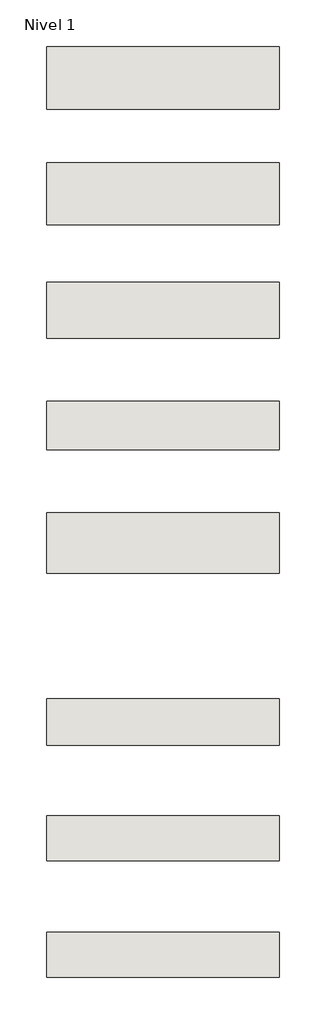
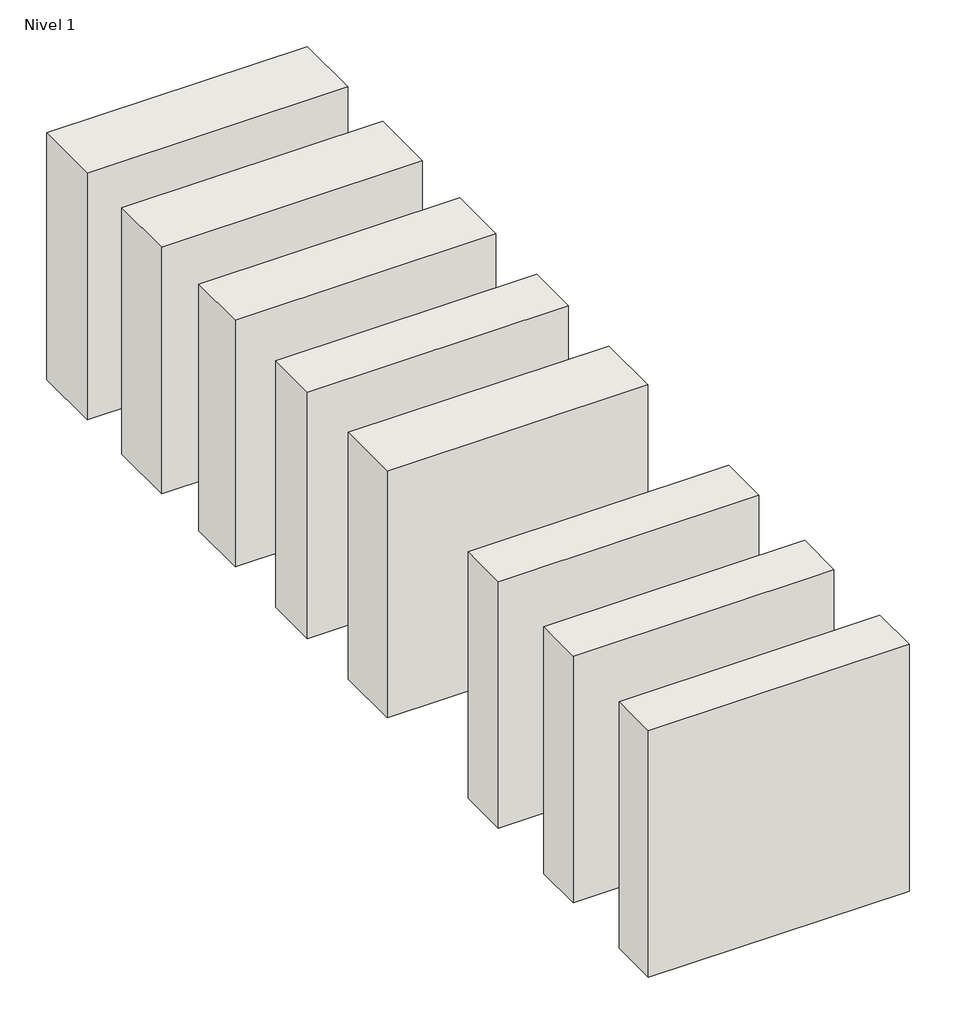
# One storey: 8 walls.
"""IFC4 building model written with IfcOpenShell, lengths in millimetres."""

from ifc_helpers import new_model, si_unit, origin, origin_with_axes, place, context, project, spatial, polyline, outline, extrude, element, save

model = new_model("IFC4")

# Units and contexts
model_context = context("Model", 3, world=origin())
ifc_project = project(units=[si_unit("LENGTHUNIT", "METRE", prefix="MILLI")], contexts=[model_context])

# Site, building, storey
site = spatial("IfcSite", under=ifc_project)
building = spatial("IfcBuilding", under=site)
storey = spatial("IfcBuildingStorey", under=building, Name="Nivel 1", Elevation=0.0)

# Walls
placement = place(None, origin())
element("IfcWall", 1, ObjectType="SATEbrick Acústico 11,5 yeso una cara. Trasdosado una con lana mineral 45 mm + PYL15", at=placement, inside=storey, context=model_context, shape_type="SweptSolid", body=[
    extrude(outline(polyline([(-1966.2152419, 6530.8319856), (-2966.2152419, 6530.8319856), (-2966.2152419, 6730.8319856), (-1966.2152419, 6730.8319856), (-1966.2152419, 6530.8319856)])), origin_with_axes(), (0.0, 0.0, 1.0), 1000.0),
])
element("IfcWall", 2, ObjectType="Megabrick Triplex 11 cm. Trasdosado ambas caras con lana mineral 50 mm + PYL 15", at=placement, inside=storey, context=model_context, shape_type="SweptSolid", body=[
    extrude(outline(polyline([(-1966.2152419, 7268.3319856), (-2966.2152419, 7268.3319856), (-2966.2152419, 7528.3319856), (-1966.2152419, 7528.3319856), (-1966.2152419, 7268.3319856)])), origin_with_axes(), (0.0, 0.0, 1.0), 1000.0),
])
element("IfcWall", 3, ObjectType="Megabrick Triple Acústico 7. Trasdosado ambas caras con lana mineral 45 mm + PYL 15", at=placement, inside=storey, context=model_context, shape_type="SweptSolid", body=[
    extrude(outline(polyline([(-1966.2152419, 7798.3319856), (-2966.2152419, 7798.3319856), (-2966.2152419, 8008.3319856), (-1966.2152419, 8008.3319856), (-1966.2152419, 7798.3319856)])), origin_with_axes(), (0.0, 0.0, 1.0), 1000.0),
])
element("IfcWall", 4, ObjectType="Megabrick 7 Tabique. Trasdosado ambas caras con lana mineral 50 mm + 2 PYL12,5", at=placement, inside=storey, context=model_context, shape_type="SweptSolid", body=[
    extrude(outline(polyline([(-1966.2152419, 8278.3319856), (-2966.2152419, 8278.3319856), (-2966.2152419, 8518.3319856), (-1966.2152419, 8518.3319856), (-1966.2152419, 8278.3319856)])), origin_with_axes(), (0.0, 0.0, 1.0), 1000.0),
])
element("IfcWall", 5, ObjectType="SATEbrick Acústico 11,5. Trasdosado ambas caras con lana mineral 50 mm + PYL15", at=placement, inside=storey, context=model_context, shape_type="SweptSolid", body=[
    extrude(outline(polyline([(-1966.2152419, 8765.8319856), (-2966.2152419, 8765.8319856), (-2966.2152419, 9030.8319856), (-1966.2152419, 9030.8319856), (-1966.2152419, 8765.8319856)])), origin_with_axes(), (0.0, 0.0, 1.0), 1000.0),
])
element("IfcWall", 6, ObjectType="Megabrick Triplex 11 cm yeso una cara. Trasdosado una con lana mineral 45 mm + PYL15", at=placement, inside=storey, context=model_context, shape_type="SweptSolid", body=[
    extrude(outline(polyline([(-1966.2152419, 6033.3319856), (-2966.2152419, 6033.3319856), (-2966.2152419, 6228.3319856), (-1966.2152419, 6228.3319856), (-1966.2152419, 6033.3319856)])), origin_with_axes(), (0.0, 0.0, 1.0), 1000.0),
])
element("IfcWall", 7, ObjectType="Megabrick Triplex 11 cm yeso una cara. Trasdosado una con lana mineral 45 mm + PYL15", at=placement, inside=storey, context=model_context, shape_type="SweptSolid", body=[
    extrude(outline(polyline([(-1966.2152419, 5533.3319856), (-2966.2152419, 5533.3319856), (-2966.2152419, 5728.3319856), (-1966.2152419, 5728.3319856), (-1966.2152419, 5533.3319856)])), origin_with_axes(), (0.0, 0.0, 1.0), 1000.0),
])
element("IfcWall", 8, ObjectType="TERMOrec 12. Trasdosado ambas caras con lana mineral 50 mm + PYL15 2", at=placement, inside=storey, context=model_context, shape_type="SweptSolid", body=[
    extrude(outline(polyline([(-1966.2152419, 9260.8319856), (-2966.2152419, 9260.8319856), (-2966.2152419, 9530.8319856), (-1966.2152419, 9530.8319856), (-1966.2152419, 9260.8319856)])), origin_with_axes(), (0.0, 0.0, 1.0), 1000.0),
])

save(model, "model.ifc")
